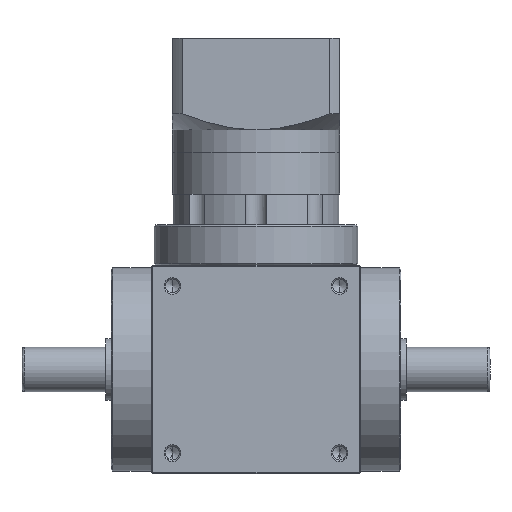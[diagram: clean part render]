
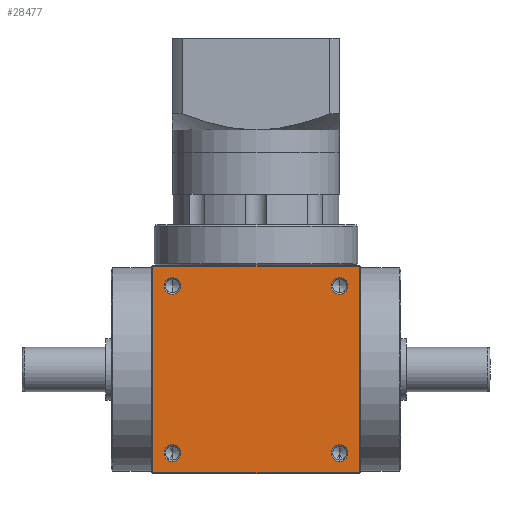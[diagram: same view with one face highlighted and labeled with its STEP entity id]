
A CAD part, front view. The second image highlights one B-rep face of the part: STEP entity #28477.
In plain terms, the highlighted planar face has unit normal (0, -1, 0).
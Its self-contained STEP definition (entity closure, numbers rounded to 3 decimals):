
#216 = ORIENTED_EDGE ( 'NONE', *, *, #27671, .F. ) ;
#670 = CARTESIAN_POINT ( 'NONE',  ( 30., -37.5, 64.475 ) ) ;
#962 = EDGE_LOOP ( 'NONE', ( #11934, #52009 ) ) ;
#1248 = VERTEX_POINT ( 'NONE', #3970 ) ;
#2411 = DIRECTION ( 'NONE',  ( 0., 0., -1. ) ) ;
#2519 = CIRCLE ( 'NONE', #50509, 3.025 ) ;
#2536 = LINE ( 'NONE', #29529, #39705 ) ;
#2558 = DIRECTION ( 'NONE',  ( 0., -1., 0. ) ) ;
#2591 = EDGE_LOOP ( 'NONE', ( #24801, #32133, #46977, #41131 ) ) ;
#2700 = DIRECTION ( 'NONE',  ( -1., 0., 0. ) ) ;
#3551 = DIRECTION ( 'NONE',  ( 0., -1., 0. ) ) ;
#3970 = CARTESIAN_POINT ( 'NONE',  ( -30., -37.5, 4.475 ) ) ;
#4197 = DIRECTION ( 'NONE',  ( 1., 0., 0. ) ) ;
#4783 = FACE_OUTER_BOUND ( 'NONE', #2591, .T. ) ;
#4836 = DIRECTION ( 'NONE',  ( 0., 0., -1. ) ) ;
#5364 = CARTESIAN_POINT ( 'NONE',  ( 30., -37.5, 4.475 ) ) ;
#6875 = ORIENTED_EDGE ( 'NONE', *, *, #45350, .F. ) ;
#9166 = EDGE_CURVE ( 'NONE', #1248, #46949, #29979, .T. ) ;
#9931 = DIRECTION ( 'NONE',  ( 0., -1., 0. ) ) ;
#10825 = DIRECTION ( 'NONE',  ( 0., -1., 0. ) ) ;
#11934 = ORIENTED_EDGE ( 'NONE', *, *, #41929, .F. ) ;
#12765 = CARTESIAN_POINT ( 'NONE',  ( 30., -37.5, 7.5 ) ) ;
#13667 = AXIS2_PLACEMENT_3D ( 'NONE', #29378, #2558, #33887 ) ;
#14446 = EDGE_CURVE ( 'NONE', #33458, #22587, #47769, .T. ) ;
#15791 = DIRECTION ( 'NONE',  ( 0., 0., 1. ) ) ;
#16712 = FACE_BOUND ( 'NONE', #962, .T. ) ;
#17259 = DIRECTION ( 'NONE',  ( 0., 0., -1. ) ) ;
#17638 = AXIS2_PLACEMENT_3D ( 'NONE', #52339, #25531, #56844 ) ;
#18641 = EDGE_CURVE ( 'NONE', #52921, #27390, #42921, .T. ) ;
#18821 = EDGE_LOOP ( 'NONE', ( #31585, #43918 ) ) ;
#19307 = CARTESIAN_POINT ( 'NONE',  ( 30., -37.5, 70.525 ) ) ;
#20428 = DIRECTION ( 'NONE',  ( 0., -1., 0. ) ) ;
#21471 = LINE ( 'NONE', #27200, #57188 ) ;
#22230 = CARTESIAN_POINT ( 'NONE',  ( -37.5, -37.5, 74.5 ) ) ;
#22587 = VERTEX_POINT ( 'NONE', #49739 ) ;
#22965 = VERTEX_POINT ( 'NONE', #44791 ) ;
#23305 = CARTESIAN_POINT ( 'NONE',  ( 37., -37.5, 0.5 ) ) ;
#23421 = VECTOR ( 'NONE', #15791, 1000. ) ;
#23452 = DIRECTION ( 'NONE',  ( 0., 1., 0. ) ) ;
#23705 = LINE ( 'NONE', #22230, #58007 ) ;
#23821 = EDGE_CURVE ( 'NONE', #25896, #33712, #2519, .T. ) ;
#24801 = ORIENTED_EDGE ( 'NONE', *, *, #42188, .F. ) ;
#25531 = DIRECTION ( 'NONE',  ( 0., -1., 0. ) ) ;
#25896 = VERTEX_POINT ( 'NONE', #55999 ) ;
#26759 = CIRCLE ( 'NONE', #43486, 3.025 ) ;
#27200 = CARTESIAN_POINT ( 'NONE',  ( 37., -37.5, 75. ) ) ;
#27390 = VERTEX_POINT ( 'NONE', #670 ) ;
#27671 = EDGE_CURVE ( 'NONE', #46949, #1248, #53223, .T. ) ;
#27749 = EDGE_CURVE ( 'NONE', #33712, #25896, #39941, .T. ) ;
#27968 = PLANE ( 'NONE',  #57438 ) ;
#28477 = ADVANCED_FACE ( 'NONE', ( #16712, #51053, #41973, #39176, #4783 ), #27968, .F. ) ;
#29133 = EDGE_LOOP ( 'NONE', ( #6875, #47740 ) ) ;
#29230 = DIRECTION ( 'NONE',  ( 0., -1., 0. ) ) ;
#29378 = CARTESIAN_POINT ( 'NONE',  ( -30., -37.5, 67.5 ) ) ;
#29529 = CARTESIAN_POINT ( 'NONE',  ( -37.5, -37.5, 0.5 ) ) ;
#29665 = AXIS2_PLACEMENT_3D ( 'NONE', #12765, #44127, #17259 ) ;
#29979 = CIRCLE ( 'NONE', #46860, 3.025 ) ;
#30378 = CARTESIAN_POINT ( 'NONE',  ( 30., -37.5, 7.5 ) ) ;
#31585 = ORIENTED_EDGE ( 'NONE', *, *, #27749, .F. ) ;
#31996 = CARTESIAN_POINT ( 'NONE',  ( -30., -37.5, 70.525 ) ) ;
#32133 = ORIENTED_EDGE ( 'NONE', *, *, #38591, .F. ) ;
#32448 = CARTESIAN_POINT ( 'NONE',  ( -37.5, -37.5, 75. ) ) ;
#32572 = VERTEX_POINT ( 'NONE', #38414 ) ;
#33458 = VERTEX_POINT ( 'NONE', #31996 ) ;
#33712 = VERTEX_POINT ( 'NONE', #5364 ) ;
#33887 = DIRECTION ( 'NONE',  ( 0., 0., -1. ) ) ;
#34798 = EDGE_CURVE ( 'NONE', #22965, #32572, #35345, .T. ) ;
#34903 = DIRECTION ( 'NONE',  ( 0., 0., -1. ) ) ;
#35345 = LINE ( 'NONE', #46988, #23421 ) ;
#36799 = CARTESIAN_POINT ( 'NONE',  ( -30., -37.5, 67.5 ) ) ;
#36990 = DIRECTION ( 'NONE',  ( 0., 0., 1. ) ) ;
#37698 = CARTESIAN_POINT ( 'NONE',  ( -30., -37.5, 7.5 ) ) ;
#38414 = CARTESIAN_POINT ( 'NONE',  ( -37., -37.5, 74.5 ) ) ;
#38591 = EDGE_CURVE ( 'NONE', #32572, #41921, #23705, .T. ) ;
#39176 = FACE_BOUND ( 'NONE', #52778, .T. ) ;
#39705 = VECTOR ( 'NONE', #2700, 1000. ) ;
#39941 = CIRCLE ( 'NONE', #29665, 3.025 ) ;
#41131 = ORIENTED_EDGE ( 'NONE', *, *, #42352, .F. ) ;
#41303 = DIRECTION ( 'NONE',  ( 0., 0., -1. ) ) ;
#41921 = VERTEX_POINT ( 'NONE', #55998 ) ;
#41929 = EDGE_CURVE ( 'NONE', #22587, #33458, #54317, .T. ) ;
#41973 = FACE_BOUND ( 'NONE', #18821, .T. ) ;
#42188 = EDGE_CURVE ( 'NONE', #41921, #49172, #21471, .T. ) ;
#42200 = DIRECTION ( 'NONE',  ( 0., 0., -1. ) ) ;
#42352 = EDGE_CURVE ( 'NONE', #49172, #22965, #2536, .T. ) ;
#42921 = CIRCLE ( 'NONE', #57424, 3.025 ) ;
#43486 = AXIS2_PLACEMENT_3D ( 'NONE', #56046, #29230, #2411 ) ;
#43918 = ORIENTED_EDGE ( 'NONE', *, *, #23821, .F. ) ;
#44127 = DIRECTION ( 'NONE',  ( 0., -1., 0. ) ) ;
#44791 = CARTESIAN_POINT ( 'NONE',  ( -37., -37.5, 0.5 ) ) ;
#45350 = EDGE_CURVE ( 'NONE', #27390, #52921, #26759, .T. ) ;
#46860 = AXIS2_PLACEMENT_3D ( 'NONE', #37698, #10825, #42200 ) ;
#46949 = VERTEX_POINT ( 'NONE', #55641 ) ;
#46977 = ORIENTED_EDGE ( 'NONE', *, *, #34798, .F. ) ;
#46988 = CARTESIAN_POINT ( 'NONE',  ( -37., -37.5, 75. ) ) ;
#47305 = CARTESIAN_POINT ( 'NONE',  ( 30., -37.5, 67.5 ) ) ;
#47740 = ORIENTED_EDGE ( 'NONE', *, *, #18641, .F. ) ;
#47769 = CIRCLE ( 'NONE', #54546, 3.025 ) ;
#49172 = VERTEX_POINT ( 'NONE', #23305 ) ;
#49739 = CARTESIAN_POINT ( 'NONE',  ( -30., -37.5, 64.475 ) ) ;
#50509 = AXIS2_PLACEMENT_3D ( 'NONE', #30378, #3551, #34903 ) ;
#51053 = FACE_BOUND ( 'NONE', #29133, .T. ) ;
#51757 = DIRECTION ( 'NONE',  ( 0., 0., -1. ) ) ;
#52009 = ORIENTED_EDGE ( 'NONE', *, *, #14446, .F. ) ;
#52339 = CARTESIAN_POINT ( 'NONE',  ( -30., -37.5, 7.5 ) ) ;
#52778 = EDGE_LOOP ( 'NONE', ( #53644, #216 ) ) ;
#52921 = VERTEX_POINT ( 'NONE', #19307 ) ;
#53223 = CIRCLE ( 'NONE', #17638, 3.025 ) ;
#53644 = ORIENTED_EDGE ( 'NONE', *, *, #9166, .F. ) ;
#54317 = CIRCLE ( 'NONE', #13667, 3.025 ) ;
#54546 = AXIS2_PLACEMENT_3D ( 'NONE', #36799, #9931, #41303 ) ;
#55641 = CARTESIAN_POINT ( 'NONE',  ( -30., -37.5, 10.525 ) ) ;
#55998 = CARTESIAN_POINT ( 'NONE',  ( 37., -37.5, 74.5 ) ) ;
#55999 = CARTESIAN_POINT ( 'NONE',  ( 30., -37.5, 10.525 ) ) ;
#56046 = CARTESIAN_POINT ( 'NONE',  ( 30., -37.5, 67.5 ) ) ;
#56844 = DIRECTION ( 'NONE',  ( 0., 0., -1. ) ) ;
#57188 = VECTOR ( 'NONE', #4836, 1000. ) ;
#57424 = AXIS2_PLACEMENT_3D ( 'NONE', #47305, #20428, #51757 ) ;
#57438 = AXIS2_PLACEMENT_3D ( 'NONE', #32448, #23452, #36990 ) ;
#58007 = VECTOR ( 'NONE', #4197, 1000. ) ;
